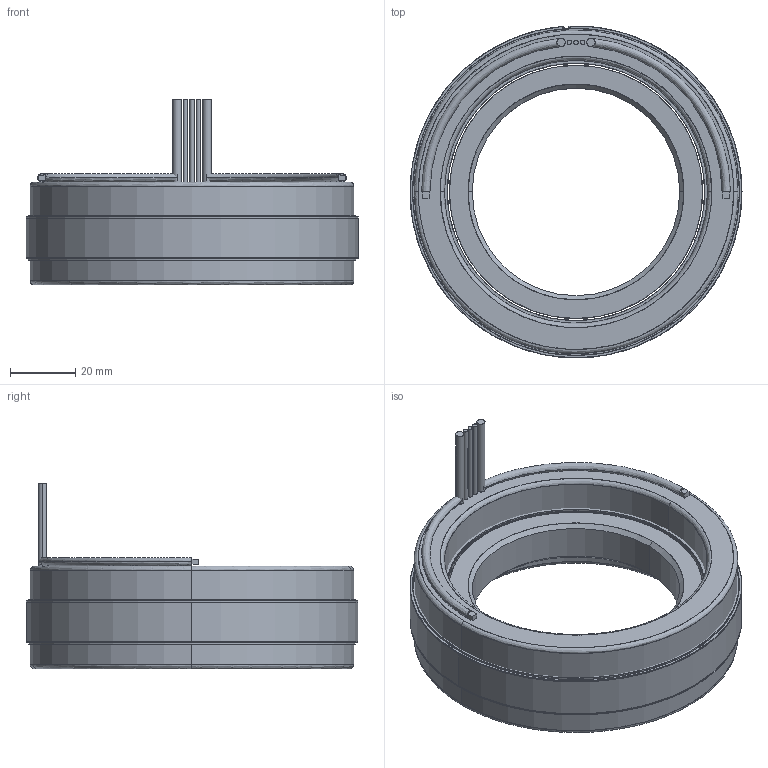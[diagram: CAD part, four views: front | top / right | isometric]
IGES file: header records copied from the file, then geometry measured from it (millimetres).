
Start section: SolidWorks IGES file using analytic representation for surfaces
Global section: file name: \\fs01.aveox.local\user documents\eng\My Documents\STANDARD STATOR ROTOR SETS\NEW DIRECT DRIVE MOTOR\4 OD 27S24P\6100339-01.IGS; native system: SolidWorks 2016; preprocessor: SolidWorks 2016; author: eng; date: 191023.141632; units: millimetre
Bounding box: 101.6 x 101.57 x 56.9 mm (x, y, z)
Surface area: 71887.4 mm2 (no closed solid volume)
Topology: 0 solids, 0 shells, 109 faces, 2502 edges, 2502 vertices
Faces by surface type: bspline 56, revolution 53
